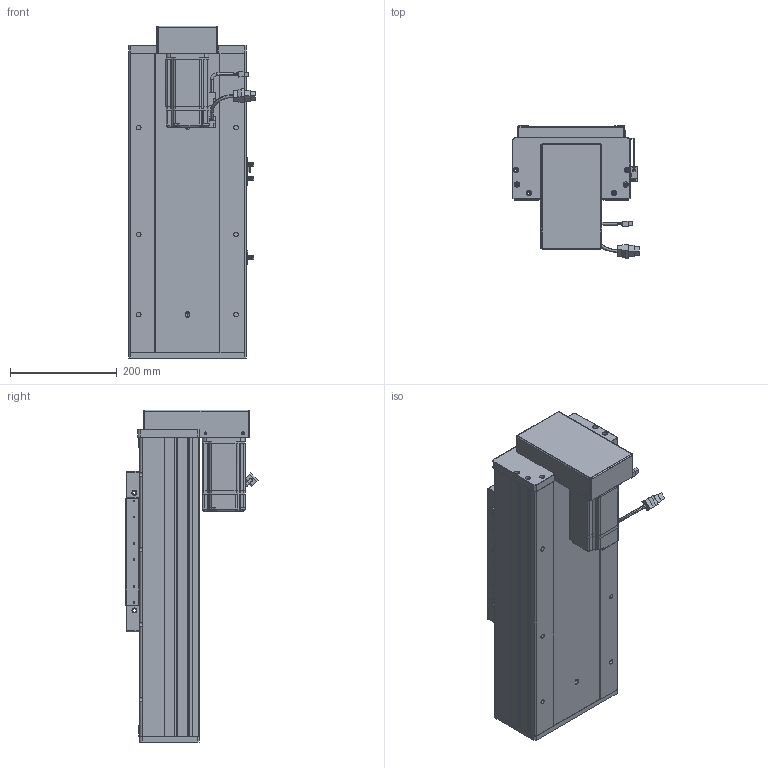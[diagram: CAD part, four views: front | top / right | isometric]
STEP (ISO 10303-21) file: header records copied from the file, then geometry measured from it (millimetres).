
FILE_DESCRIPTION (( 'STEP AP203' ), '1' );
FILE_NAME ('RY220F-L2525-300-BK.SLDASM_150.step', '2022-07-04T01:20:11', ( '' ), ( '' ), 'SwSTEP 2.0', 'SolidWorks 2016', '' );
FILE_SCHEMA (( 'CONFIG_CONTROL_DESIGN' ));
Length unit declared in the file: millimetre
Products named in the file (15): 侐源滅袉蝶; RY220F蛌殏菁釱-300_150; 覜茼ん672; 滅袉蝶18-24; RY220F-L2525-300-BK.SLDASM_150; RY220F臏賑釱25-32佪裝; RY220F-祥凄詩湍-蛌殏-300_150; RY220F綴裔啣; 怢湛750W_ECMA-CX0807ES; RY220F-672覜茼んえ; RY220F-滅鳥奻裔; RY220狟殏萇儂欶; RY220狟殏萇儂假蚾啣; RY220F-蛌殏奻裔啣-300_150; RY220F-詩湍揤踡輸
Assembly tree (21 placements, depth 2):
  RY220F-L2525-300-BK.SLDASM_150
    RY220F蛌殏菁釱-300_150
    RY220F-蛌殏奻裔啣-300_150  x2
    怢湛750W_ECMA-CX0807ES
    RY220F臏賑釱25-32佪裝
    RY220F-滅鳥奻裔
    滅袉蝶18-24  x3
    RY220F綴裔啣
    RY220F-祥凄詩湍-蛌殏-300_150
    RY220F-詩湍揤踡輸  x2
    覜茼ん672  x3
    RY220F-672覜茼んえ
    侐源滅袉蝶  x2
    RY220狟殏萇儂假蚾啣
    RY220狟殏萇儂欶
Bounding box: 237.27 x 247.24 x 621 mm (x, y, z)
Volume: 7005855.7 mm3; surface area: 1762503.8 mm2
Topology: 22 solids, 22 shells, 2109 faces, 5754 edges, 3629 vertices
Faces by surface type: cylinder 912, plane 906, cone 224, bspline 41, sphere 16, torus 10
Entity records: 64437 total; most frequent: CARTESIAN_POINT 17982, ORIENTED_EDGE 9474, DIRECTION 9007, EDGE_CURVE 4737, AXIS2_PLACEMENT_3D 3147, VERTEX_POINT 3071, VECTOR 2713, LINE 2713
